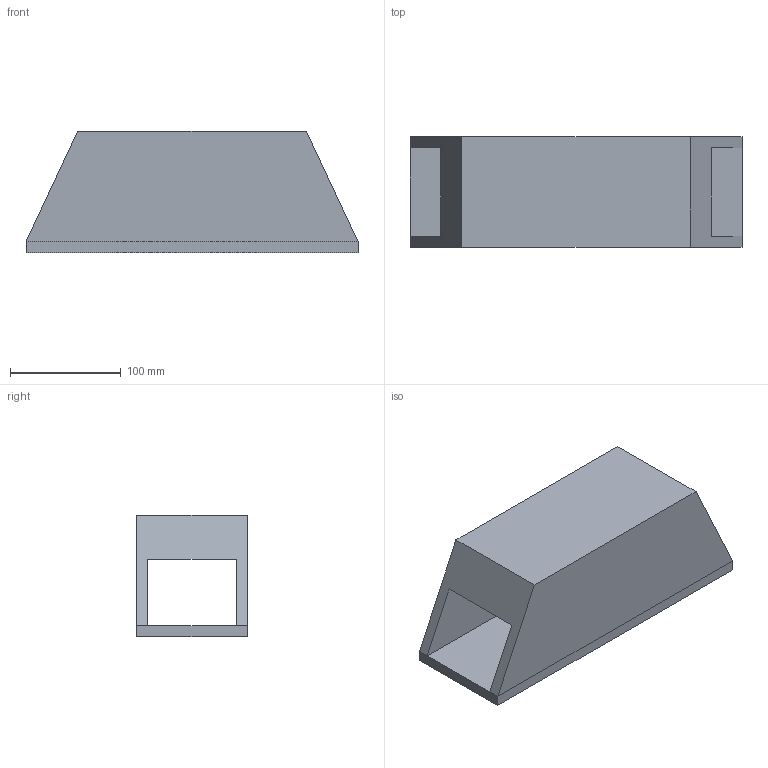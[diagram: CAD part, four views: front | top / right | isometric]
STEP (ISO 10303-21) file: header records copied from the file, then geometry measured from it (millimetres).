
FILE_DESCRIPTION(('CATIA V5 STEP Exchange'),'2;1');
FILE_NAME('C:\Users\Tanny Damet\Documents\GitHub\Th-se\Formations\CAO Submarine\Fuselage\Pont.stp','2025-04-07T10:07:36+00:00',('none'),('none'),'CATIA Version 5 Release 20 SP 7 (IN-10)','CATIA V5 STEP AP203','none');
FILE_SCHEMA(('CONFIG_CONTROL_DESIGN'));
Length unit declared in the file: millimetre
Products named in the file (1): Pont
Bounding box: 300 x 100 x 110 mm (x, y, z)
Volume: 1527988.9 mm3; surface area: 208988.9 mm2
Topology: 2 solids, 2 shells, 16 faces, 36 edges, 24 vertices
Faces by surface type: plane 16
Entity records: 475 total; most frequent: CARTESIAN_POINT 76, ORIENTED_EDGE 72, DIRECTION 66, VECTOR 36, EDGE_CURVE 36, LINE 36, VERTEX_POINT 24, AXIS2_PLACEMENT_3D 16
